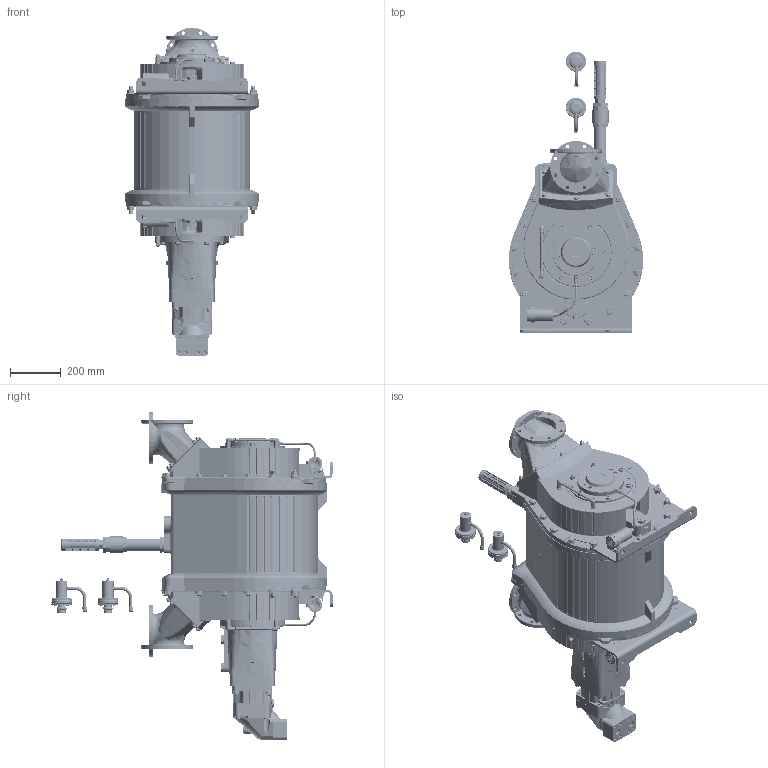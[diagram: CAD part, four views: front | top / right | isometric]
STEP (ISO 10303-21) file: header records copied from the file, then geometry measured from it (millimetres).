
FILE_DESCRIPTION(/* description */ (''),/* implementation_level */ '2;1');
FILE_NAME(/* name */ '1700161.stp',/* time_stamp */ '2026-04-22T14:17:21+02:00',/* author */ ('JJ'),/* organization */ (''),/* preprocessor_version */ 'ST-DEVELOPER v20',/* originating_system */ 'Autodesk Inventor 2025',/* authorisation */ '');
FILE_SCHEMA (('AUTOMOTIVE_DESIGN { 1 0 10303 214 3 1 1 }'));
Products named in the file (72): 1700161; 1659021; 1659049; 910100170; 910200008; 1634823; 1634808; 922000270; 910100021; 910100161; 944600276; 1659046; 910300074; 1659095; 1634824; 1634809; 922000269; 925000587; 925000590; 944600356; 944600355; 1659017; 1659069; 1634666; 1634667; 1634668; 1634130; 1634131; 1634670; 1634134; 910200105; 910100125; 910300428; 921000047; 922100045; 922100339; 1634669; 925000651; 910300012; 925000862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
Assembly tree (204 placements, depth 4):
  1700161
    1659017  x4
    1659069  x4
    1659021  x2
    910100021  x34
    910100161  x34
    910100170  x12
    910200008  x12
    1634823  x2
      1634808
      922000270
    1634826  x2
      1634811
      922000266
    1659049  x2
    944600276  x4
    1659046  x2
    910300074  x2
    1634824  x2
      1634809
      922000269
    1659095
    925000587
    925000590
    944600356
    944600355
    1634666  x2
      1634667
      1634668
      1634130
      1634131
      1634670
      1634134
      910200105
      910100125
      910300428
      921000047
      922100045
      922100339
      1634669
      925000651
      910300012
    925000862  x2
    927000134-TM2500  x2
    910300487  x2
    910100191  x2
    944600240  x2
    915000232  x2
    915000225  x2
      915000225-part1
      915000225-part2
    915000217
    1634773  x2
    915000215  x2
    915000217_1
    1659078_Simplify_body
    1659104
      1659109
      1634826  x2
        1634811
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Bounding box: 528.82 x 1107.24 x 1294.1 mm (x, y, z)
Volume: 157713031.6 mm3; surface area: 6674853.6 mm2
Topology: 222 solids, 225 shells, 11826 faces, 30601 edges, 19754 vertices
Faces by surface type: plane 4492, bspline 3166, cylinder 2605, cone 975, torus 404, sphere 184
Full cylindrical faces by diameter (mm): 1.5 x16, 3.2 x4, 3.3 x4, 3.5 x4, 4 x2, 4.134 x4, 4.917 x2, 4.92 x10, 5 x2, 5.3 x2, 6 x46, 6.1 x2, 6.4 x2, 6.5 x8, 8 x36, 8.376 x14, 8.4 x2, 8.5 x4, 8.57 x2, 9.2 x2, 9.7 x2, 9.8 x4, 10 x188, 10.106 x25, 10.5 x12, 11 x66, 11.18 x2, 11.3 x4, 11.445 x2, 12 x148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
Entity records: 504983 total; most frequent: CARTESIAN_POINT 339806, ORIENTED_EDGE 36180, DIRECTION 27547, EDGE_CURVE 18090, VERTEX_POINT 11658, AXIS2_PLACEMENT_3D 9970, EDGE_LOOP 7914, LINE 7607
